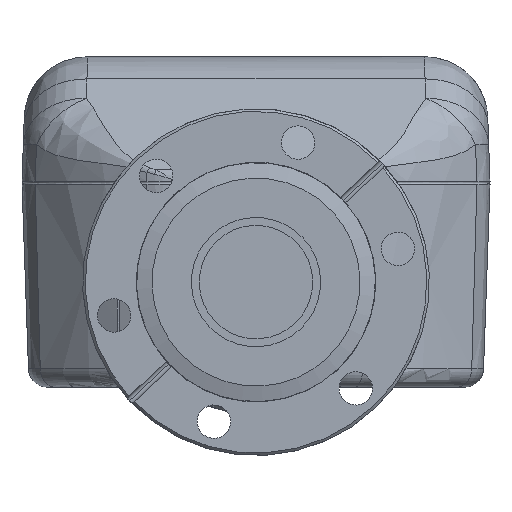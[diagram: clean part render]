
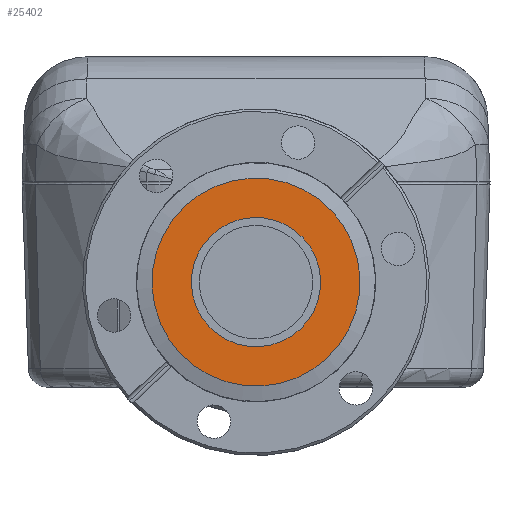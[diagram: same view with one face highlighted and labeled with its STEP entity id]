
A CAD part, front view. The second image highlights one B-rep face of the part: STEP entity #25402.
In plain terms, the highlighted planar face has unit normal (0, -1, 0).
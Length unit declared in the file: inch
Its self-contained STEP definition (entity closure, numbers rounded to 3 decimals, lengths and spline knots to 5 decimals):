
#6940 = AXIS2_PLACEMENT_3D ( 'NONE', #61875, #11170, #49219 ) ;
#7682 = EDGE_LOOP ( 'NONE', ( #64272 ) ) ;
#11170 = DIRECTION ( 'NONE',  ( 0., 1., 0. ) ) ;
#21623 = AXIS2_PLACEMENT_3D ( 'NONE', #63445, #94039, #104092 ) ;
#22238 = VERTEX_POINT ( 'NONE', #106252 ) ;
#23556 = CARTESIAN_POINT ( 'NONE',  ( 2.42116, -6.22251, -2.38865 ) ) ;
#25402 = ADVANCED_FACE ( 'NONE', ( #39007, #79684 ), #120325, .T. ) ;
#34635 = CIRCLE ( 'NONE', #6940, 0.5125 ) ;
#39007 = FACE_BOUND ( 'NONE', #7682, .T. ) ;
#42329 = CARTESIAN_POINT ( 'NONE',  ( 1.85625, -6.22251, -1.7874 ) ) ;
#49219 = DIRECTION ( 'NONE',  ( 0.685, 0., -0.729 ) ) ;
#59836 = ORIENTED_EDGE ( 'NONE', *, *, #130606, .F. ) ;
#61875 = CARTESIAN_POINT ( 'NONE',  ( 1.85625, -6.22251, -1.7874 ) ) ;
#63445 = CARTESIAN_POINT ( 'NONE',  ( 1.85625, -6.22251, -1.7874 ) ) ;
#64272 = ORIENTED_EDGE ( 'NONE', *, *, #108258, .T. ) ;
#67288 = AXIS2_PLACEMENT_3D ( 'NONE', #42329, #82967, #105469 ) ;
#79684 = FACE_OUTER_BOUND ( 'NONE', #81302, .T. ) ;
#81302 = EDGE_LOOP ( 'NONE', ( #59836 ) ) ;
#82967 = DIRECTION ( 'NONE',  ( 0., -1., 0. ) ) ;
#94039 = DIRECTION ( 'NONE',  ( 0., 1., 0. ) ) ;
#104092 = DIRECTION ( 'NONE',  ( 0.685, 0., -0.729 ) ) ;
#105469 = DIRECTION ( 'NONE',  ( -0.729, 0., -0.685 ) ) ;
#106252 = CARTESIAN_POINT ( 'NONE',  ( 2.20718, -6.22251, -2.1609 ) ) ;
#108258 = EDGE_CURVE ( 'NONE', #22238, #22238, #34635, .T. ) ;
#113219 = CIRCLE ( 'NONE', #21623, 0.825 ) ;
#114916 = VERTEX_POINT ( 'NONE', #23556 ) ;
#120325 = PLANE ( 'NONE',  #67288 ) ;
#130606 = EDGE_CURVE ( 'NONE', #114916, #114916, #113219, .T. ) ;
